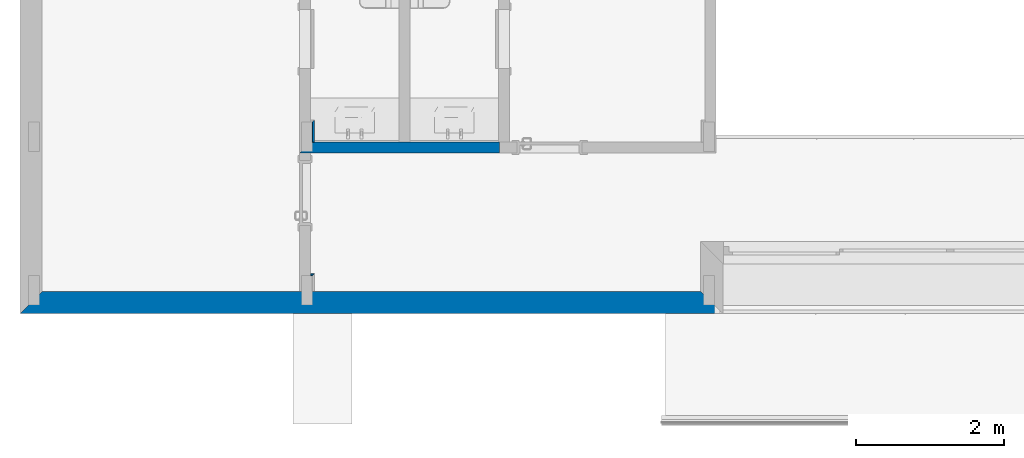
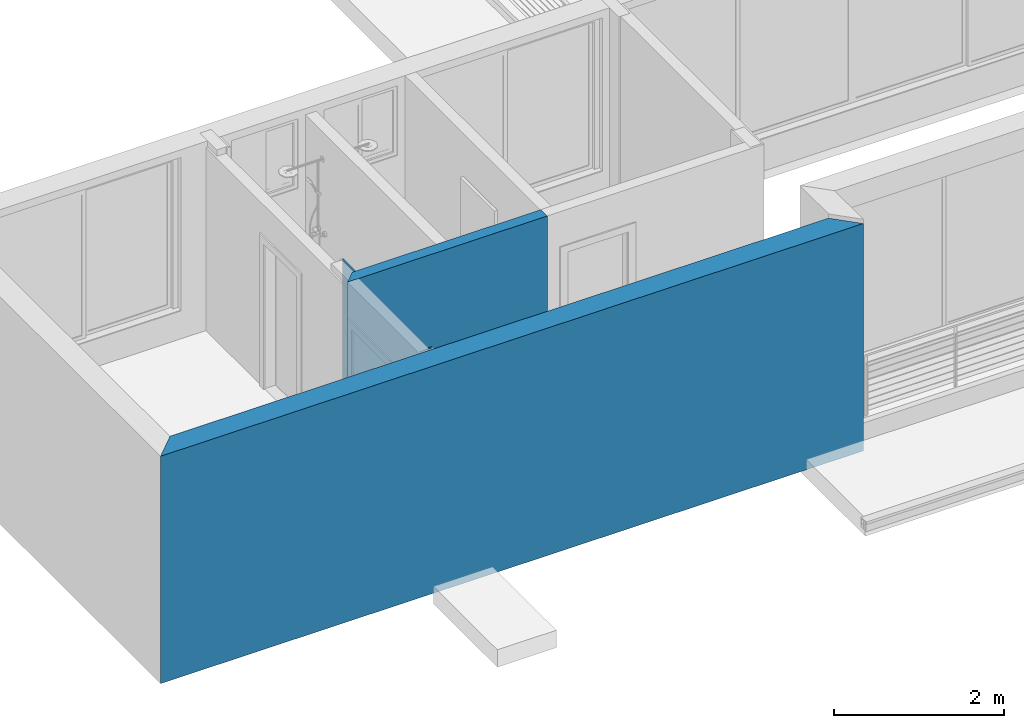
# One storey, part 4 of 24: 4 walls.
"""IFC2X3 building model written with IfcOpenShell, lengths in millimetres."""

from ifc_helpers import new_model, entity, si_unit, converted_unit, money_unit, direction, frame, origin_with_axes, place, context, subcontext, project, spatial, polyline, outline, extrude, material, layer, layer_set, layer_usage, type_object, element, save


model = new_model("IFC2X3")

# Units and contexts
model_context = context("Model", 3, precision=1e-05, world=origin_with_axes(), true_north=direction((0.0, 1.0)))
body_context = subcontext(model_context, "Body", "Model", "MODEL_VIEW")
ifc_project = project(units=[si_unit("LENGTHUNIT", "METRE", prefix="MILLI"), si_unit("AREAUNIT", "SQUARE_METRE"), si_unit("VOLUMEUNIT", "CUBIC_METRE"), converted_unit("PLANEANGLEUNIT", "DEGREE", entity("IfcPlaneAngleMeasure", 0.0174532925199), si_unit("PLANEANGLEUNIT", "RADIAN"), dimensions=[0, 0, 0, 0, 0, 0, 0]), si_unit("SOLIDANGLEUNIT", "STERADIAN"), money_unit("USD"), converted_unit("TIMEUNIT", "Year", entity("IfcTimeMeasure", 31556926.0), si_unit("TIMEUNIT", "SECOND"), dimensions=[0, 0, 0, 0, 0, 0, 0]), si_unit("MASSUNIT", "GRAM"), si_unit("THERMODYNAMICTEMPERATUREUNIT", "DEGREE_CELSIUS"), si_unit("LUMINOUSINTENSITYUNIT", "LUMEN")], contexts=[model_context])

# Site, building, storey
site_placement = place(None, origin_with_axes())
site = spatial("IfcSite", under=ifc_project, at=site_placement, Name="Grove Residential", CompositionType="ELEMENT")
building_placement = place(site_placement, origin_with_axes())
building = spatial("IfcBuilding", under=site, at=building_placement, Name="Building", CompositionType="ELEMENT")
storey_placement = place(building_placement, frame((0.0, 0.0, 3740.0), z_axis=(0.0, 0.0, 1.0), x_axis=(1.0, 0.0, 0.0)))
storey = spatial("IfcBuildingStorey", under=building, at=storey_placement, Name="First Floor", CompositionType="ELEMENT", Elevation=3740.0)

# Walls
ifc_material_1 = material(Name="Wall Tiles")
ifc_layer_1 = layer(ifc_material_1, 12.5, ventilated="UNKNOWN")
ifc_material_2 = material(Name="Gypsum Plasterboard - Waterproof")
ifc_layer_2 = layer(ifc_material_2, 12.5, ventilated="UNKNOWN")
ifc_material_3 = material(Name="Air Space - Frame")
ifc_layer_3 = layer(ifc_material_3, 50.0, ventilated="UNKNOWN")
ifc_material_4 = material(Name="Insulation - Mineral Soft")
ifc_layer_4 = layer(ifc_material_4, 50.0, ventilated="UNKNOWN")
ifc_material_5 = material(Name="Gypsum Plasterboard")
ifc_layer_5 = layer(ifc_material_5, 12.5, ventilated="UNKNOWN")
ifc_layer_6 = layer(ifc_material_5, 12.5, ventilated="UNKNOWN")
ifc_layer_set_1 = layer_set([ifc_layer_1, ifc_layer_2, ifc_layer_3, ifc_layer_4, ifc_layer_5, ifc_layer_6], Name="IWF-002")
ifc_layer_usage_1 = layer_usage(ifc_layer_set_1, "AXIS2", "POSITIVE", -150.0)
wall_type_1 = type_object("IfcWallType", Name="IWF-002 150", PredefinedType="NOTDEFINED")
wall_1_placement = place(storey_placement, frame((-2200.0, 3524.99996722, -60.0), z_axis=(0.0, 0.0, 1.0), x_axis=(-1.0, 0.0, 0.0)))
element("IfcWallStandardCase", 1, at=wall_1_placement, inside=storey, type_object=wall_type_1, material=ifc_layer_usage_1, Name="SW - 001", context=body_context, shape_type="SweptSolid", body=[
    extrude(outline(polyline([(0.0, -150.0), (2560.0, -150.0), (2710.0, 0.0), (0.0, 0.0), (0.0, -150.0)])), origin_with_axes(), (0.0, 0.0, 1.0), 2770.0),
])
ifc_material_6 = material(Name="Timber - External Cladding")
ifc_layer_7 = layer(ifc_material_6, 40.0, ventilated="UNKNOWN")
ifc_material_7 = material(Name="Air Space - Fixing Zone")
ifc_layer_8 = layer(ifc_material_7, 25.0, ventilated="UNKNOWN")
ifc_material_8 = material(Name="Insulation - Plastic Soft")
ifc_layer_9 = layer(ifc_material_8, 50.0, ventilated="UNKNOWN")
ifc_material_9 = material(Name="Concrete Block")
ifc_layer_10 = layer(ifc_material_9, 150.0, ventilated="UNKNOWN")
ifc_layer_11 = layer(ifc_material_7, 10.0, ventilated="UNKNOWN")
ifc_layer_12 = layer(ifc_material_5, 12.5, ventilated="UNKNOWN")
ifc_layer_13 = layer(ifc_material_5, 12.5, ventilated="UNKNOWN")
ifc_layer_set_2 = layer_set([ifc_layer_7, ifc_layer_8, ifc_layer_9, ifc_layer_10, ifc_layer_11, ifc_layer_12, ifc_layer_13], Name="EWF - 002")
ifc_layer_usage_2 = layer_usage(ifc_layer_set_2, "AXIS2", "NEGATIVE", 115.0)
wall_type_2 = type_object("IfcWallType", Name="EWF - 002 300", PredefinedType="NOTDEFINED")
wall_2_placement = place(storey_placement, frame((714.999982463, 1464.99992309, -400.0), z_axis=(0.0, 0.0, 1.0), x_axis=(-1.0, 0.0, 0.0)))
element("IfcWallStandardCase", 2, at=wall_2_placement, inside=storey, type_object=wall_type_2, material=ifc_layer_usage_2, Name="SW - 003", context=body_context, shape_type="SweptSolid", body=[
    extrude(outline(polyline([(185.0, -185.0), (9114.99998246, -185.0), (9414.99998246, 115.0), (-115.0, 115.0), (185.0, -185.0)])), origin_with_axes(), (0.0, 0.0, 1.0), 3260.0),
])
ifc_layer_14 = layer(ifc_material_5, 12.5, ventilated="UNKNOWN")
ifc_layer_15 = layer(ifc_material_5, 12.5, ventilated="UNKNOWN")
ifc_layer_set_3 = layer_set([ifc_layer_14, ifc_layer_15], Name="IF-001")
ifc_layer_usage_3 = layer_usage(ifc_layer_set_3, "AXIS2", "POSITIVE", -25.0)
wall_type_3 = type_object("IfcWallType", Name="IF-001 25", PredefinedType="NOTDEFINED")
wall_3_placement = place(storey_placement, frame((-4735.0, 1864.99992309, -60.0), z_axis=(0.0, 0.0, 1.0), x_axis=(-1.0, 0.0, 0.0)))
element("IfcWallStandardCase", 3, at=wall_3_placement, inside=storey, type_object=wall_type_3, material=ifc_layer_usage_3, Name="SW - 002", context=body_context, shape_type="SweptSolid", body=[
    extrude(outline(polyline([(-25.0, -25.0), (25.0, -25.0), (25.0, 0.0), (0.0, 0.0), (-25.0, -25.0)])), origin_with_axes(), (0.0, 0.0, 1.0), 2770.0),
])
ifc_layer_16 = layer(ifc_material_1, 12.5, ventilated="UNKNOWN")
ifc_layer_17 = layer(ifc_material_5, 12.5, ventilated="UNKNOWN")
ifc_layer_set_4 = layer_set([ifc_layer_16, ifc_layer_17], Name="IF-002")
ifc_layer_usage_4 = layer_usage(ifc_layer_set_4, "AXIS2", "NEGATIVE", 25.0)
wall_type_4 = type_object("IfcWallType", Name="IF-002 25", PredefinedType="NOTDEFINED")
wall_4_placement = place(storey_placement, frame((-4735.0, 3949.99996722, -60.0), z_axis=(0.0, 0.0, 1.0), x_axis=(0.0, -1.0, 0.0)))
element("IfcWallStandardCase", 4, at=wall_4_placement, inside=storey, type_object=wall_type_4, material=ifc_layer_usage_4, Name="SW - 004", context=body_context, shape_type="SweptSolid", body=[
    extrude(outline(polyline([(0.0, 0.0), (275.0, 0.0), (275.0, 25.0), (-25.0, 25.0), (0.0, 0.0)])), origin_with_axes(), (0.0, 0.0, 1.0), 2770.0),
])

save(model, "model.ifc")
